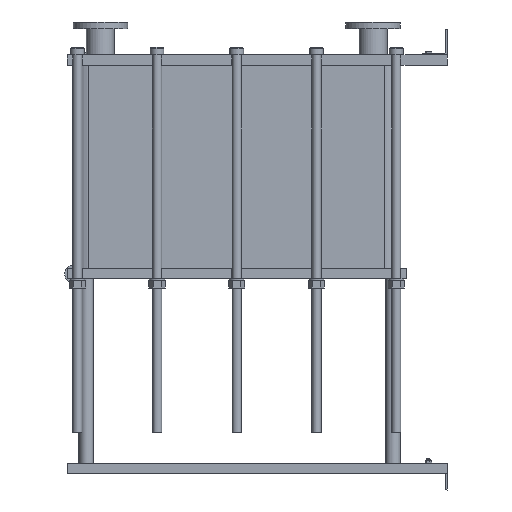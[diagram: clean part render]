
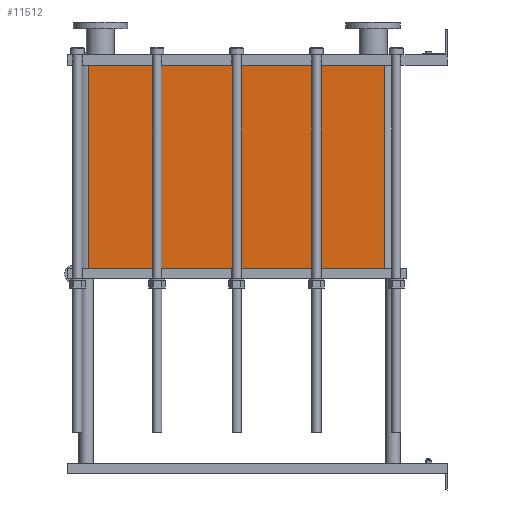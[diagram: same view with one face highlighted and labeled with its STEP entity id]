
A CAD part, left-side view. The second image highlights one B-rep face of the part: STEP entity #11512.
In plain terms, the highlighted planar face has unit normal (-1, 0, 0).
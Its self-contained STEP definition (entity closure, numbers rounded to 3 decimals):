
#1129=LINE('',#23232,#2102);
#1130=LINE('',#23236,#2103);
#1131=LINE('',#23238,#2104);
#1132=LINE('',#23239,#2105);
#2102=VECTOR('',#15887,10.);
#2103=VECTOR('',#15892,10.);
#2104=VECTOR('',#15893,10.);
#2105=VECTOR('',#15894,10.);
#3267=FACE_OUTER_BOUND('',#4093,.T.);
#4093=EDGE_LOOP('',(#10103,#10104,#10105,#10106));
#5642=VERTEX_POINT('',#23229);
#5643=VERTEX_POINT('',#23231);
#5644=VERTEX_POINT('',#23235);
#5645=VERTEX_POINT('',#23237);
#7159=EDGE_CURVE('',#5643,#5642,#1129,.T.);
#7161=EDGE_CURVE('',#5642,#5644,#1130,.T.);
#7162=EDGE_CURVE('',#5645,#5644,#1131,.T.);
#7163=EDGE_CURVE('',#5645,#5643,#1132,.T.);
#10103=ORIENTED_EDGE('',*,*,#7161,.T.);
#10104=ORIENTED_EDGE('',*,*,#7162,.F.);
#10105=ORIENTED_EDGE('',*,*,#7163,.T.);
#10106=ORIENTED_EDGE('',*,*,#7159,.T.);
#10857=PLANE('',#12751);
#11512=ADVANCED_FACE('',(#3267),#10857,.T.);
#12751=AXIS2_PLACEMENT_3D('',#23234,#15890,#15891);
#15887=DIRECTION('',(0.,0.,-1.));
#15890=DIRECTION('center_axis',(-1.,0.,0.));
#15891=DIRECTION('ref_axis',(0.,1.,0.));
#15892=DIRECTION('',(0.,-1.,0.));
#15893=DIRECTION('',(0.,0.,-1.));
#15894=DIRECTION('',(0.,1.,0.));
#23229=CARTESIAN_POINT('',(-200.,1414.,-803.85));
#23231=CARTESIAN_POINT('',(-200.,1414.,0.));
#23232=CARTESIAN_POINT('',(-200.,1414.,0.));
#23234=CARTESIAN_POINT('Origin',(-200.,248.,0.));
#23235=CARTESIAN_POINT('',(-200.,248.,-803.85));
#23236=CARTESIAN_POINT('',(-200.,539.5,-803.85));
#23237=CARTESIAN_POINT('',(-200.,248.,0.));
#23238=CARTESIAN_POINT('',(-200.,248.,0.));
#23239=CARTESIAN_POINT('',(-200.,248.,0.));
